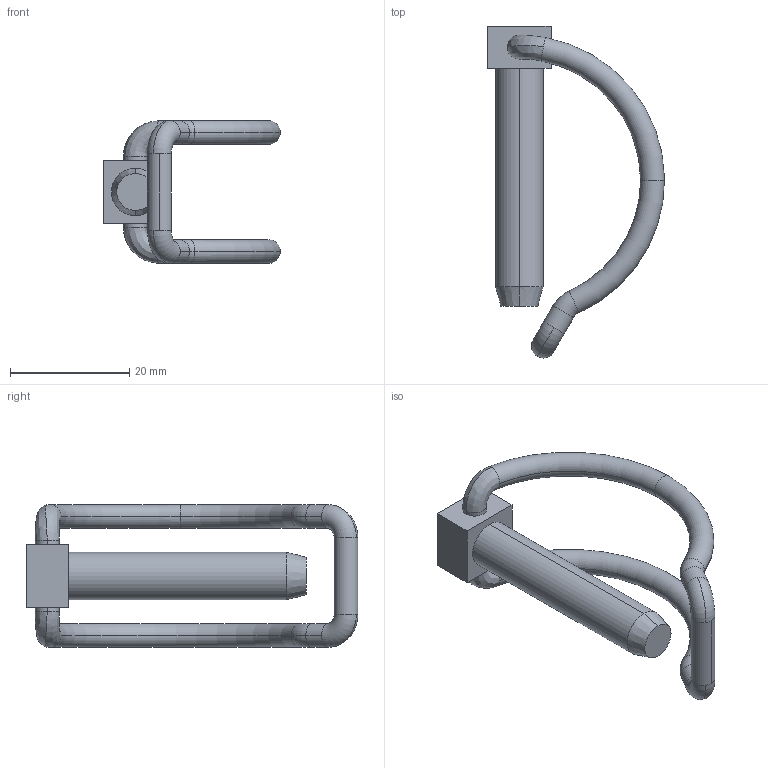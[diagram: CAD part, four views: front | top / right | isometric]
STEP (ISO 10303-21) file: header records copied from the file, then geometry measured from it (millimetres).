
FILE_DESCRIPTION (( 'STEP AP203' ), '1' );
FILE_NAME ('33320.W0080.step', '2025-02-04T13:40:36', ( '' ), ( '' ), 'SwSTEP 2.0', 'SolidWorks 2019', '' );
FILE_SCHEMA (( 'CONFIG_CONTROL_DESIGN' ));
Length unit declared in the file: millimetre
Products named in the file (3): 33320.W0080; Part5_33320.W0080; part1_33320.W0080
Assembly tree (2 placements, depth 2):
  33320.W0080
    part1_33320.W0080
    Part5_33320.W0080
Bounding box: 29.72 x 55.76 x 24 mm (x, y, z)
Volume: 4781.4 mm3; surface area: 3773.9 mm2
Topology: 2 solids, 2 shells, 43 faces, 98 edges, 60 vertices
Faces by surface type: cylinder 14, torus 14, plane 9, bspline 4, cone 2
Entity records: 1827 total; most frequent: CARTESIAN_POINT 518, DIRECTION 248, ORIENTED_EDGE 196, AXIS2_PLACEMENT_3D 110, EDGE_CURVE 98, CIRCLE 66, VERTEX_POINT 60, EDGE_LOOP 46
